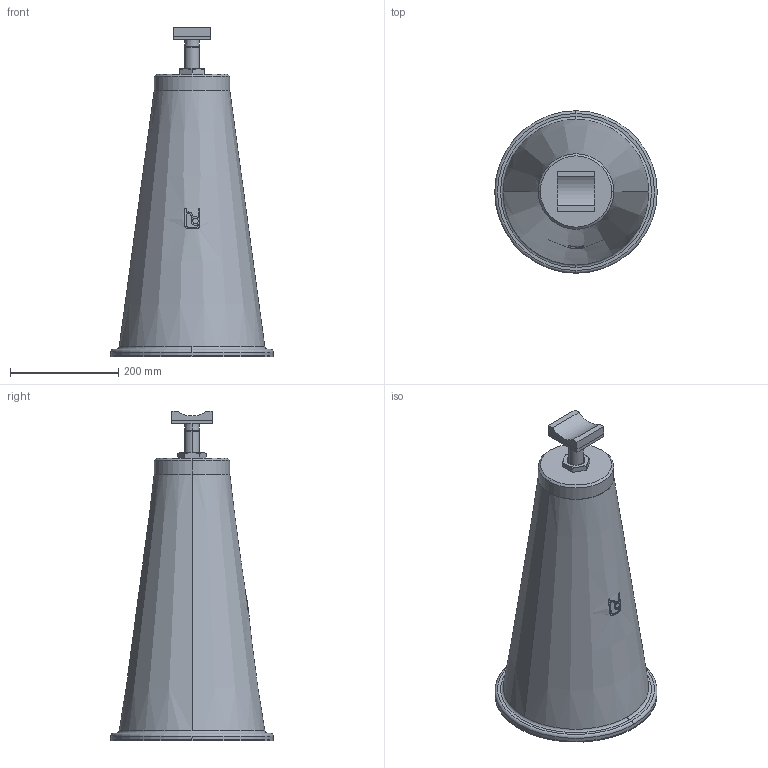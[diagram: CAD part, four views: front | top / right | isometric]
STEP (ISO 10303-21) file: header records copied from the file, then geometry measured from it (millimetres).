
FILE_DESCRIPTION(('STEP AP214'),'1');
FILE_NAME('RSRFC_DN80.stp','2018-06-27T07:09:47',(' '),(' '),'Spatial InterOp 3D',' ',' ');
FILE_SCHEMA(('automotive_design'));
Length unit declared in the file: millimetre
Products named in the file (6): 1; 2; 3; 4; 5; 6
Bounding box: 300 x 300 x 609 mm (x, y, z)
Volume: 17983302 mm3; surface area: 658924.6 mm2
Topology: 6 solids, 6 shells, 113 faces, 278 edges, 182 vertices
Faces by surface type: plane 50, cylinder 32, cone 23, torus 8
Entity records: 4945 total; most frequent: CARTESIAN_POINT 1241, DIRECTION 565, ORIENTED_EDGE 556, EDGE_CURVE 278, AXIS2_PLACEMENT_3D 216, VERTEX_POINT 182, LINE 133, VECTOR 133
